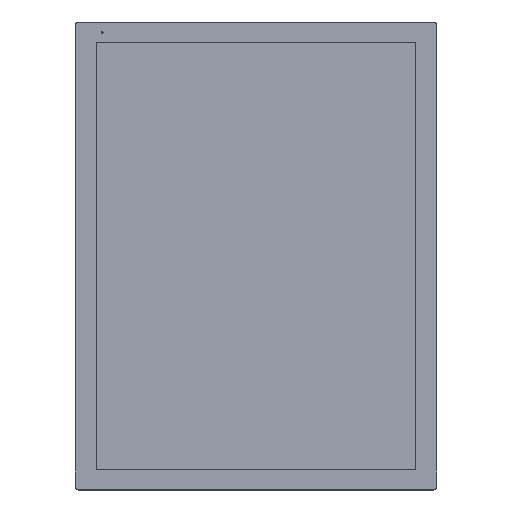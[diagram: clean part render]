
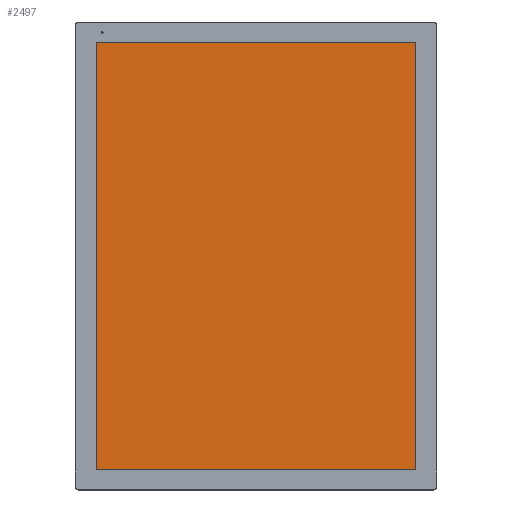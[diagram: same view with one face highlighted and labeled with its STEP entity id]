
A CAD part, top view. The second image highlights one B-rep face of the part: STEP entity #2497.
In plain terms, the highlighted planar face has unit normal (0, 0, 1).
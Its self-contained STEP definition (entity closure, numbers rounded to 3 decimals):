
#97 = CARTESIAN_POINT ( 'NONE',  ( 0., 0., -1. ) ) ;
#583 = ORIENTED_EDGE ( 'NONE', *, *, #1855, .T. ) ;
#792 = CARTESIAN_POINT ( 'NONE',  ( 320.3, -427.4, -1. ) ) ;
#892 = FACE_OUTER_BOUND ( 'NONE', #6916, .T. ) ;
#1062 = VECTOR ( 'NONE', #4951, 1000. ) ;
#1187 = AXIS2_PLACEMENT_3D ( 'NONE', #97, #5501, #8221 ) ;
#1202 = VECTOR ( 'NONE', #4198, 1000. ) ;
#1224 = LINE ( 'NONE', #1927, #8717 ) ;
#1324 = CARTESIAN_POINT ( 'NONE',  ( -320.3, -427.4, -1. ) ) ;
#1425 = PLANE ( 'NONE',  #1187 ) ;
#1490 = CARTESIAN_POINT ( 'NONE',  ( -320.3, 427.4, -1. ) ) ;
#1659 = CARTESIAN_POINT ( 'NONE',  ( -320.3, -427.4, -1. ) ) ;
#1814 = VERTEX_POINT ( 'NONE', #8044 ) ;
#1855 = EDGE_CURVE ( 'NONE', #3534, #5706, #7421, .T. ) ;
#1927 = CARTESIAN_POINT ( 'NONE',  ( 320.3, -427.4, -1. ) ) ;
#2387 = VECTOR ( 'NONE', #4031, 1000. ) ;
#2497 = ADVANCED_FACE ( 'NONE', ( #892 ), #1425, .F. ) ;
#2623 = DIRECTION ( 'NONE',  ( 0., 1., 0. ) ) ;
#3033 = EDGE_CURVE ( 'NONE', #7999, #3534, #8336, .T. ) ;
#3360 = EDGE_CURVE ( 'NONE', #1814, #7999, #4855, .T. ) ;
#3534 = VERTEX_POINT ( 'NONE', #3775 ) ;
#3775 = CARTESIAN_POINT ( 'NONE',  ( -320.3, -427.4, -1. ) ) ;
#4031 = DIRECTION ( 'NONE',  ( 1., 0., 0. ) ) ;
#4198 = DIRECTION ( 'NONE',  ( -1., 0., 0. ) ) ;
#4701 = EDGE_CURVE ( 'NONE', #5706, #1814, #1224, .T. ) ;
#4855 = LINE ( 'NONE', #1490, #1202 ) ;
#4949 = ORIENTED_EDGE ( 'NONE', *, *, #4701, .T. ) ;
#4951 = DIRECTION ( 'NONE',  ( 0., -1., 0. ) ) ;
#5034 = ORIENTED_EDGE ( 'NONE', *, *, #3360, .T. ) ;
#5501 = DIRECTION ( 'NONE',  ( 0., 0., -1. ) ) ;
#5706 = VERTEX_POINT ( 'NONE', #792 ) ;
#6916 = EDGE_LOOP ( 'NONE', ( #8312, #583, #4949, #5034 ) ) ;
#7421 = LINE ( 'NONE', #1324, #2387 ) ;
#7999 = VERTEX_POINT ( 'NONE', #8467 ) ;
#8044 = CARTESIAN_POINT ( 'NONE',  ( 320.3, 427.4, -1. ) ) ;
#8221 = DIRECTION ( 'NONE',  ( -1., 0., 0. ) ) ;
#8312 = ORIENTED_EDGE ( 'NONE', *, *, #3033, .T. ) ;
#8336 = LINE ( 'NONE', #1659, #1062 ) ;
#8467 = CARTESIAN_POINT ( 'NONE',  ( -320.3, 427.4, -1. ) ) ;
#8717 = VECTOR ( 'NONE', #2623, 1000. ) ;
